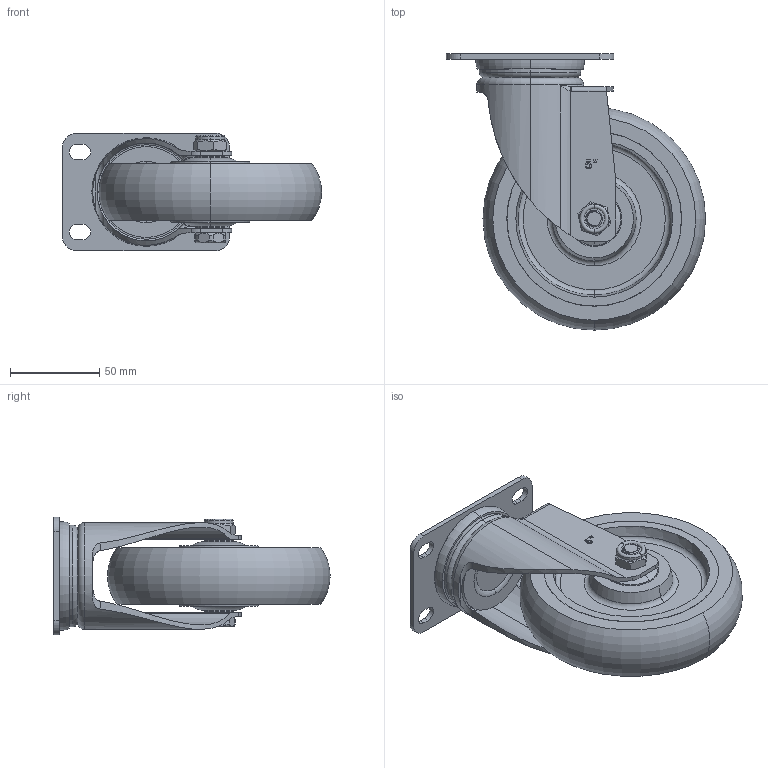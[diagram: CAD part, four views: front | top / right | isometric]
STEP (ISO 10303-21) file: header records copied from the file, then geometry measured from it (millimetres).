
FILE_DESCRIPTION (( 'STEP AP203' ), '1' );
FILE_NAME ('5寸平底万向.STEP', '2024-03-19T03:41:09', ( '微软用户' ), ( '微软中国' ), 'SwSTEP 2.0', 'SolidWorks 2008', '' );
FILE_SCHEMA (( 'CONFIG_CONTROL_DESIGN' ));
Length unit declared in the file: millimetre
Products named in the file (7): M10蹟譫; M10-55蹟裝; 5渡す菁勀砃; 40.2mm中型中管_默认; 底板_默认; 2023-3-8  中型5寸万向支架_默认; 中型5寸轮_默认
Assembly tree (6 placements, depth 2):
  5渡す菁勀砃
    M10蹟譫
    2023-3-8  中型5寸万向支架_默认
    40.2mm中型中管_默认
    中型5寸轮_默认
    M10-55蹟裝
    底板_默认
Bounding box: 145.5 x 155.11 x 66 mm (x, y, z)
Volume: 403125.5 mm3; surface area: 97787.9 mm2
Topology: 6 solids, 6 shells, 458 faces, 1168 edges, 757 vertices
Faces by surface type: plane 176, cylinder 124, bspline 86, torus 52, cone 20
Entity records: 19876 total; most frequent: CARTESIAN_POINT 8637, ORIENTED_EDGE 2328, DIRECTION 1958, EDGE_CURVE 1164, VERTEX_POINT 757, AXIS2_PLACEMENT_3D 703, VECTOR 552, LINE 552
